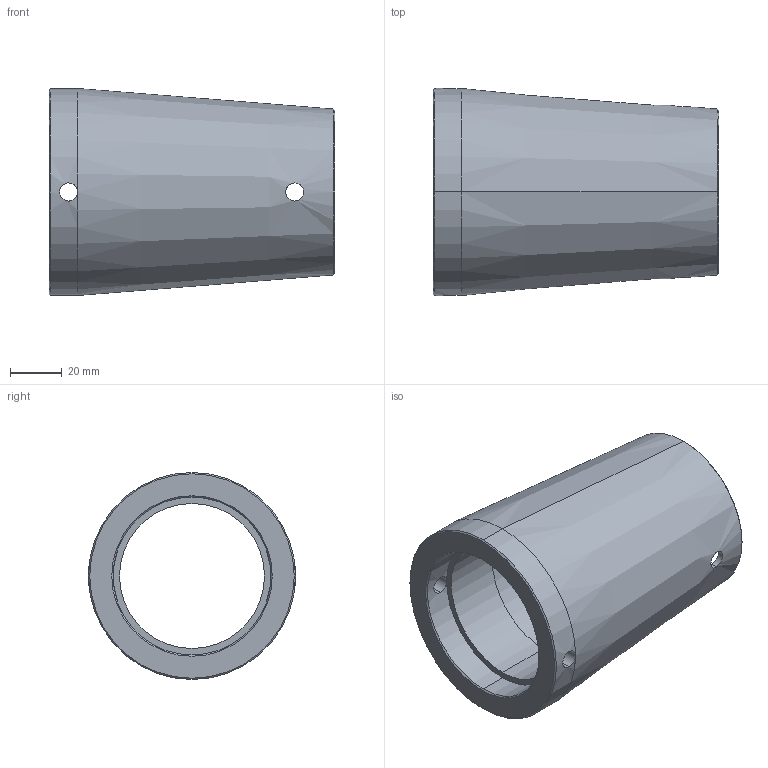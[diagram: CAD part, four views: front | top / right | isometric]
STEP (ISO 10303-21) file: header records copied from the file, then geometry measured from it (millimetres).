
FILE_DESCRIPTION (( 'STEP AP203' ), '1' );
FILE_NAME ('Abdeckhülse M56.STEP', '2018-02-20T06:52:41', ( 'install' ), ( 'Hewlett-Packard Company' ), 'SwSTEP 2.0', 'SolidWorks 2017', '' );
FILE_SCHEMA (( 'CONFIG_CONTROL_DESIGN' ));
Length unit declared in the file: millimetre
Products named in the file (1): Abdeckhülse M56
Bounding box: 110.4 x 80 x 80 mm (x, y, z)
Volume: 169791.3 mm3; surface area: 48760.4 mm2
Topology: 1 solids, 1 shells, 31 faces, 82 edges, 50 vertices
Faces by surface type: cylinder 18, cone 8, plane 5
Entity records: 1543 total; most frequent: CARTESIAN_POINT 696, ORIENTED_EDGE 164, DIRECTION 158, EDGE_CURVE 82, AXIS2_PLACEMENT_3D 66, VERTEX_POINT 50, EDGE_LOOP 38, CIRCLE 34
